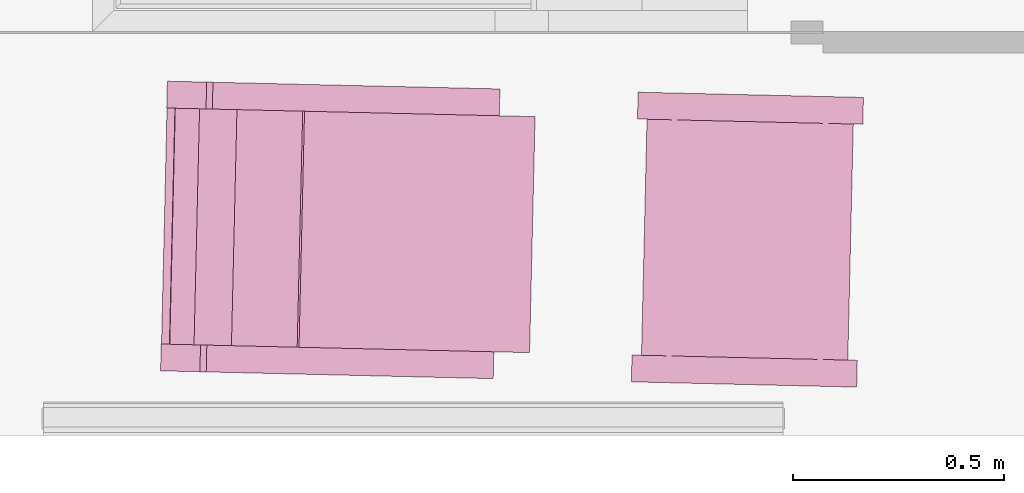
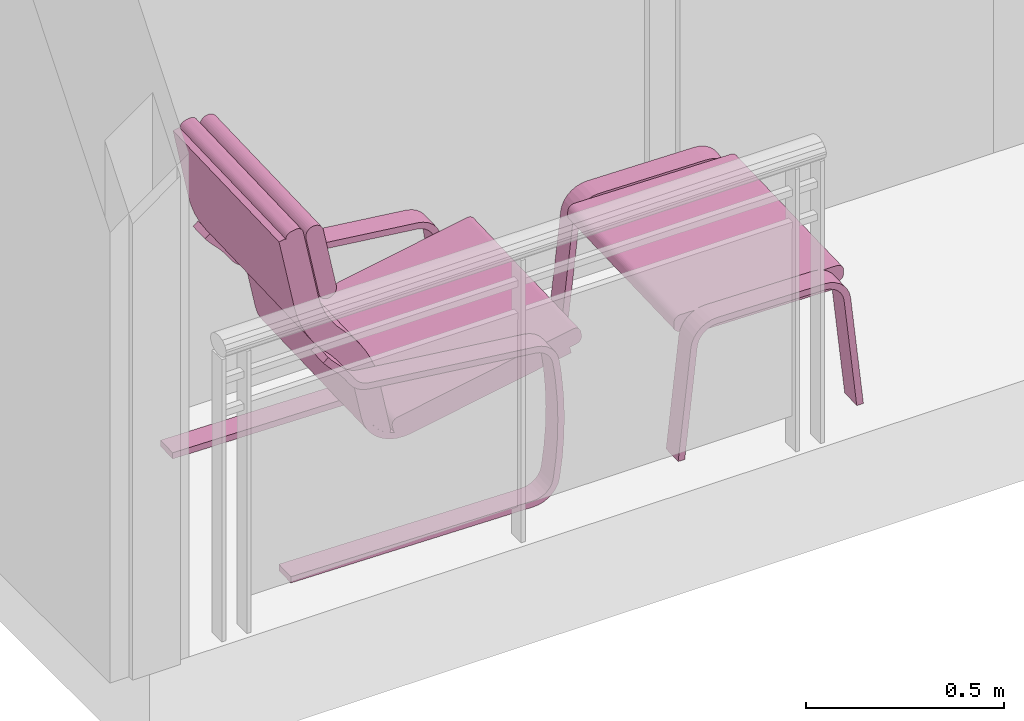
# One storey, part 5 of 7: 1 furnishing.
"""IFC2X3 building model written with IfcOpenShell, lengths in metres."""

from ifc_helpers import new_model, entity, si_unit, converted_unit, derived_unit, direction, frame, frame_2d, origin, place, context, subcontext, project, spatial, polyline, circle_curve, parameter, trimmed, segment, composite_curve, outline, extrude, source, transform, mapped, material, material_list, type_object, type_shapes, element, save


model = new_model("IFC2X3")

# Units and contexts
model_context = context("Model", 3, precision=1e-05, world=origin(), true_north=direction((6.123233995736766e-17, 1.0)))
body_context = subcontext(model_context, "Body", "Model", "MODEL_VIEW")
ifc_project = project(units=[si_unit("LENGTHUNIT", "METRE"), si_unit("AREAUNIT", "SQUARE_METRE"), converted_unit("PLANEANGLEUNIT", "DEGREE", entity("IfcPlaneAngleMeasure", 0.017453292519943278), si_unit("PLANEANGLEUNIT", "RADIAN"), dimensions=[0, 0, 0, 0, 0, 0, 0]), derived_unit("THERMALTRANSMITTANCEUNIT", [(si_unit("MASSUNIT", "GRAM", prefix="KILO"), 1), (si_unit("THERMODYNAMICTEMPERATUREUNIT", "KELVIN"), -1), (si_unit("TIMEUNIT", "SECOND"), -3)])], contexts=[model_context])

# Site, building, storey
site_placement = place(None, origin())
site = spatial("IfcSite", under=ifc_project, at=site_placement, Name="Default", CompositionType="ELEMENT")
building_placement = place(site_placement, origin())
building = spatial("IfcBuilding", under=site, at=building_placement, CompositionType="ELEMENT")
storey_placement = place(building_placement, origin())
storey = spatial("IfcBuildingStorey", under=building, at=storey_placement, Name="0 - Ground Floor", CompositionType="ELEMENT", Elevation=0.0)

# Furnishing
ifc_material_1 = material(Name="Wood")
ifc_material_2 = material(Name="Cushion")
ifc_material_list = material_list([ifc_material_1, ifc_material_2])
furniture_type = type_object("IfcFurnitureType", Name="063_Ikea_Poang_Chair_And:063_Ikea_Poang_Chair_And", AssemblyPlace="NOTDEFINED", material=ifc_material_list)
shared_shape = source(origin(), body_context, "Body", "SweptSolid", [
    extrude(outline(composite_curve([segment(polyline([(0.35449940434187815, -0.4332111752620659), (0.37354940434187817, -0.4332111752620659)]), True, "CONTINUOUS"), segment(polyline([(0.37354940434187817, -0.4332111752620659), (0.37354940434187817, 0.26534304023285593)]), True, "CONTINUOUS"), segment(trimmed(circle_curve(frame_2d((0.2973494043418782, 0.26534304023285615), x_axis=(0.15290324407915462, 0.9882411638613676)), 0.0761999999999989), [parameter(278.795211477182)], [parameter(7.836886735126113e-12)], True, "PARAMETER"), True, "CONTINUOUS"), segment(trimmed(circle_curve(frame_2d((0.13091363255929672, -0.8103612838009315), x_axis=(-0.11376432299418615, 0.9935077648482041)), 1.164703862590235), [parameter(344.67243029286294)], [parameter(0.16536362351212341)], True, "PARAMETER"), True, "CONTINUOUS"), segment(trimmed(circle_curve(frame_2d((0.1309136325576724, -0.8103612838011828), x_axis=(-0.15874459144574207, 0.9873196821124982)), 1.1647038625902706), [parameter(357.56368651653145)], [parameter(359.9999999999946)], True, "PARAMETER"), True, "CONTINUOUS"), segment(trimmed(circle_curve(frame_2d((-0.041880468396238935, 0.2643400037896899), x_axis=(-0.9945141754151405, 0.10460188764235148)), 0.07619999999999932), [parameter(285.138265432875)], [parameter(1.0177774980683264e-13)], True, "PARAMETER"), True, "CONTINUOUS"), segment(polyline([(-0.11766244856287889, 0.272310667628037), (-0.16807823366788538, -0.20702306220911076)]), True, "CONTINUOUS"), segment(trimmed(circle_curve(frame_2d((-0.2249147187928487, -0.20104506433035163), x_axis=(0.5243054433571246, -0.851530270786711)), 0.05714999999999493), [parameter(4.106732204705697e-11)], [parameter(52.37427210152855)], True, "PARAMETER"), False, "CONTINUOUS"), segment(trimmed(circle_curve(frame_2d((-0.03260861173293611, -0.513371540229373), x_axis=(-0.7157475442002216, 0.6983591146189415)), 0.30963258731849), [parameter(345.91700114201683)], [parameter(359.9999999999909)], True, "PARAMETER"), True, "CONTINUOUS"), segment(trimmed(circle_curve(frame_2d((-0.4860222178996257, -0.07097320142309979), x_axis=(0.19905992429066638, -0.9799873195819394)), 0.32384999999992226), [parameter(26.80512335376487)], [parameter(34.22250530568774)], True, "PARAMETER"), False, "CONTINUOUS"), segment(polyline([(-0.28536393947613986, -0.325168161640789), (-0.2735605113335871, -0.3401208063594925)]), True, "CONTINUOUS"), segment(trimmed(circle_curve(frame_2d((-0.48602221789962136, -0.07097320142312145), x_axis=(0.6196025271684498, -0.7849157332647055)), 0.34289999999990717), [parameter(6.411998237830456e-12)], [parameter(7.4173819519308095)], True, "PARAMETER"), True, "CONTINUOUS"), segment(trimmed(circle_curve(frame_2d((-0.03260861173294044, -0.513371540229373), x_axis=(-0.7157475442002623, 0.6983591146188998)), 0.29058258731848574), [parameter(345.9170011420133)], [parameter(359.9999999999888)], True, "PARAMETER"), False, "CONTINUOUS"), segment(trimmed(circle_curve(frame_2d((-0.2249147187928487, -0.20104506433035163), x_axis=(0.5243054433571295, -0.8515302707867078)), 0.07619999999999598), [parameter(3.974421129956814e-11)], [parameter(52.374272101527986)], True, "PARAMETER"), True, "CONTINUOUS"), segment(polyline([(-0.14913273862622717, -0.20901572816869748), (-0.09871695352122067, 0.27031800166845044)]), True, "CONTINUOUS"), segment(trimmed(circle_curve(frame_2d((-0.041880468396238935, 0.2643400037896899), x_axis=(-0.9945141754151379, 0.10460188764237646)), 0.057149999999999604), [parameter(285.1382654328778)], [parameter(1.93377724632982e-12)], True, "PARAMETER"), False, "CONTINUOUS"), segment(trimmed(circle_curve(frame_2d((0.13091363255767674, -0.8103612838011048), x_axis=(-0.15874459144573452, 0.9873196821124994)), 1.145653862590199), [parameter(357.1296139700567)], [parameter(359.9999999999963)], True, "PARAMETER"), False, "CONTINUOUS"), segment(trimmed(circle_curve(frame_2d((0.13091363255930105, -0.8103612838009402), x_axis=(0.15290324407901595, 0.9882411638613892)), 1.1456538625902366), [parameter(9.159997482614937e-13)], [parameter(15.058860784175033)], True, "PARAMETER"), False, "CONTINUOUS"), segment(trimmed(circle_curve(frame_2d((0.2973494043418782, 0.2653430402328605), x_axis=(1.0, 0.0)), 0.057150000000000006), [parameter(1.5266662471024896e-13)], [parameter(81.20478852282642)], True, "PARAMETER"), False, "CONTINUOUS"), segment(polyline([(0.35449940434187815, 0.26534304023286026), (0.35449940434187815, -0.4332111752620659)]), True, "CONTINUOUS")], self_intersect=False)), frame((0.279400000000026, 0.01411117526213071, 0.37354940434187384), z_axis=(1.0, 0.0, 0.0), x_axis=(0.0, 0.0, -1.0)), (0.0, 0.0, 1.0), 0.06349999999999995),
    extrude(outline(composite_curve([segment(polyline([(0.35449940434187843, -0.433211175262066), (0.37354940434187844, -0.433211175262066)]), True, "CONTINUOUS"), segment(polyline([(0.37354940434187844, -0.433211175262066), (0.37354940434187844, 0.2653430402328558)]), True, "CONTINUOUS"), segment(trimmed(circle_curve(frame_2d((0.29734940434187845, 0.2653430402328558), x_axis=(0.15290324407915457, 0.9882411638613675)), 0.0761999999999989), [parameter(278.7952114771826)], [parameter(8.29488660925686e-12)], True, "PARAMETER"), True, "CONTINUOUS"), segment(trimmed(circle_curve(frame_2d((0.130913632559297, -0.810361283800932), x_axis=(-0.11376432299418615, 0.993507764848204)), 1.164703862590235), [parameter(344.6724302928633)], [parameter(0.16536362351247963)], True, "PARAMETER"), True, "CONTINUOUS"), segment(trimmed(circle_curve(frame_2d((0.1309136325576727, -0.8103612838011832), x_axis=(-0.15874459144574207, 0.9873196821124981)), 1.1647038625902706), [parameter(357.5636865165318)], [parameter(359.99999999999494)], True, "PARAMETER"), True, "CONTINUOUS"), segment(trimmed(circle_curve(frame_2d((-0.04188046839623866, 0.2643400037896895), x_axis=(-0.9945141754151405, 0.10460188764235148)), 0.07619999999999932), [parameter(285.1382654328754)], [parameter(2.544443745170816e-13)], True, "PARAMETER"), True, "CONTINUOUS"), segment(polyline([(-0.11766244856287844, 0.27231066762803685), (-0.168078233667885, -0.20702306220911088)]), True, "CONTINUOUS"), segment(trimmed(circle_curve(frame_2d((-0.2249147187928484, -0.201045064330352), x_axis=(0.5243054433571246, -0.851530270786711)), 0.05714999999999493), [parameter(4.081287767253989e-11)], [parameter(52.37427210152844)], True, "PARAMETER"), False, "CONTINUOUS"), segment(trimmed(circle_curve(frame_2d((-0.03260861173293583, -0.5133715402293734), x_axis=(-0.7157475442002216, 0.6983591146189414)), 0.30963258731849), [parameter(345.91700114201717)], [parameter(359.99999999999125)], True, "PARAMETER"), True, "CONTINUOUS"), segment(trimmed(circle_curve(frame_2d((-0.4860222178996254, -0.07097320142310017), x_axis=(0.19905992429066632, -0.9799873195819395)), 0.32384999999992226), [parameter(26.805123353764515)], [parameter(34.222505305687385)], True, "PARAMETER"), False, "CONTINUOUS"), segment(polyline([(-0.2853639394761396, -0.32516816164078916), (-0.27356051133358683, -0.34012080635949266)]), True, "CONTINUOUS"), segment(trimmed(circle_curve(frame_2d((-0.4860222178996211, -0.07097320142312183), x_axis=(0.6196025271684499, -0.7849157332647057)), 0.34289999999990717), [parameter(6.869998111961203e-12)], [parameter(7.417381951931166)], True, "PARAMETER"), True, "CONTINUOUS"), segment(trimmed(circle_curve(frame_2d((-0.03260861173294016, -0.5133715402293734), x_axis=(-0.7157475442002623, 0.6983591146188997)), 0.29058258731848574), [parameter(345.9170011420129)], [parameter(359.9999999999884)], True, "PARAMETER"), False, "CONTINUOUS"), segment(trimmed(circle_curve(frame_2d((-0.2249147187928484, -0.201045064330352), x_axis=(0.5243054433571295, -0.8515302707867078)), 0.07619999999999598), [parameter(4.0303988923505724e-11)], [parameter(52.37427210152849)], True, "PARAMETER"), True, "CONTINUOUS"), segment(polyline([(-0.1491327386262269, -0.20901572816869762), (-0.09871695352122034, 0.2703180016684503)]), True, "CONTINUOUS"), segment(trimmed(circle_curve(frame_2d((-0.04188046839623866, 0.2643400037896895), x_axis=(-0.9945141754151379, 0.10460188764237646)), 0.057149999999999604), [parameter(285.13826543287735)], [parameter(1.3739996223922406e-12)], True, "PARAMETER"), False, "CONTINUOUS"), segment(trimmed(circle_curve(frame_2d((0.13091363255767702, -0.8103612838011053), x_axis=(-0.15874459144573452, 0.9873196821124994)), 1.145653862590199), [parameter(357.12961397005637)], [parameter(359.9999999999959)], True, "PARAMETER"), False, "CONTINUOUS"), segment(trimmed(circle_curve(frame_2d((0.13091363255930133, -0.8103612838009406), x_axis=(0.152903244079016, 0.988241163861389)), 1.1456538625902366), [parameter(5.597776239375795e-13)], [parameter(15.058860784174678)], True, "PARAMETER"), False, "CONTINUOUS"), segment(trimmed(circle_curve(frame_2d((0.29734940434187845, 0.26534304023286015), x_axis=(1.0, 0.0)), 0.057150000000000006), [parameter(0.0)], [parameter(81.20478852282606)], True, "PARAMETER"), False, "CONTINUOUS"), segment(polyline([(0.35449940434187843, 0.26534304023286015), (0.35449940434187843, -0.433211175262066)]), True, "CONTINUOUS")], self_intersect=False)), frame((-0.34290000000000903, 0.014111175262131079, 0.3735494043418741), z_axis=(1.0, 0.0, 0.0), x_axis=(0.0, 0.0, -1.0)), (0.0, 0.0, 1.0), 0.06349999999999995),
    extrude(outline(composite_curve([segment(polyline([(0.2759133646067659, -0.059107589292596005), (0.2759133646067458, -0.5301697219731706)]), True, "CONTINUOUS"), segment(polyline([(0.2759133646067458, -0.5301697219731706), (0.2949633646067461, -0.5301697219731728)]), True, "CONTINUOUS"), segment(polyline([(0.2949633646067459, -0.5301697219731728), (0.294963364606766, -0.0591075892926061)]), True, "CONTINUOUS"), segment(trimmed(circle_curve(frame_2d((0.1743133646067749, -0.05910758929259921), x_axis=(1.0, 0.0)), 0.12065000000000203), [parameter(359.99999999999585)], [parameter(89.99999999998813)], True, "PARAMETER"), True, "CONTINUOUS"), segment(polyline([(0.17431336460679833, 0.06154241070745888), (0.06483512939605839, 0.061542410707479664)]), True, "CONTINUOUS"), segment(trimmed(circle_curve(frame_2d((0.09334176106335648, 0.3698599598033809), x_axis=(-0.0920659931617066, -0.995752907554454)), 0.30963258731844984), [parameter(350.7624072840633)], [parameter(359.9999999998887)], True, "PARAMETER"), False, "CONTINUOUS"), segment(trimmed(circle_curve(frame_2d((0.09334176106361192, 0.36985995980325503), x_axis=(-0.5624082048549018, -0.8268597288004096)), 0.30963258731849), [parameter(8.803775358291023e-12)], [parameter(19.70243924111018)], True, "PARAMETER"), False, "CONTINUOUS"), segment(trimmed(circle_curve(frame_2d((-0.26293404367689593, -0.15394128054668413), x_axis=(0.0, 1.0)), 0.32384999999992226), [parameter(325.7774946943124)], [parameter(3.195821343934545e-11)], True, "PARAMETER"), True, "CONTINUOUS"), segment(polyline([(-0.2629340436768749, 0.1699087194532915), (-0.48446940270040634, 0.1699087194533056)]), True, "CONTINUOUS"), segment(polyline([(-0.48446940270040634, 0.1699087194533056), (-0.4844694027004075, 0.1508587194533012)]), True, "CONTINUOUS"), segment(polyline([(-0.48446940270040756, 0.15085871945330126), (-0.2629340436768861, 0.1508587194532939)]), True, "CONTINUOUS"), segment(trimmed(circle_curve(frame_2d((-0.2629340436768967, -0.15394128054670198), x_axis=(0.5624082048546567, 0.8268597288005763)), 0.304799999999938), [parameter(1.755666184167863e-11)], [parameter(34.22250530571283)], True, "PARAMETER"), False, "CONTINUOUS"), segment(trimmed(circle_curve(frame_2d((0.09334176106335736, 0.36985995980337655), x_axis=(-0.22675033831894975, -0.9739529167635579)), 0.328682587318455), [parameter(338.88332042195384)], [parameter(2.3889571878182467)], True, "PARAMETER"), True, "CONTINUOUS"), segment(trimmed(circle_curve(frame_2d((0.09334176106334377, 0.36985995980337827), x_axis=(-0.08936367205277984, -0.9959990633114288)), 0.3286825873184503), [parameter(354.4101321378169)], [parameter(359.99999999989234)], True, "PARAMETER"), True, "CONTINUOUS"), segment(polyline([(0.06396947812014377, 0.04249241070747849), (0.17431336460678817, 0.04249241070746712)]), True, "CONTINUOUS"), segment(trimmed(circle_curve(frame_2d((0.1743133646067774, -0.059107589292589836), x_axis=(1.0, 0.0)), 0.10159999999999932), [parameter(359.99999999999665)], [parameter(89.99999999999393)], True, "PARAMETER"), False, "CONTINUOUS")], self_intersect=False)), frame((-0.27940000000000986, -0.1553828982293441, 0.5712560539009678), z_axis=(-1.0, 0.0, 0.0), x_axis=(0.0, 0.19905992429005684, -0.9799873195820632)), (0.0, 0.0, -1.0), 0.5588000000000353),
    extrude(outline(composite_curve([segment(trimmed(circle_curve(frame_2d((-0.13674836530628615, 0.3545978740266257), x_axis=(1.0, 0.0)), 0.013309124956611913), [parameter(145.84228700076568)], [parameter(186.98119964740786)], True, "PARAMETER"), True, "CONTINUOUS"), segment(polyline([(-0.14995881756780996, 0.35298023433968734), (-0.1122084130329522, 0.16713208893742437)]), True, "CONTINUOUS"), segment(trimmed(circle_curve(frame_2d((0.2521076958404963, 0.2733432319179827), x_axis=(1.0, 0.0)), 0.3794825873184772), [parameter(196.25328764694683)], [parameter(208.97896526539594)], True, "PARAMETER"), True, "CONTINUOUS"), segment(trimmed(circle_curve(frame_2d((0.25210769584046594, 0.27334323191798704), x_axis=(1.0, 0.0)), 0.3794825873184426), [parameter(208.97896526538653)], [parameter(225.70449666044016)], True, "PARAMETER"), True, "CONTINUOUS"), segment(trimmed(circle_curve(frame_2d((-0.19029064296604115, -0.18007037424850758), x_axis=(1.0, 0.0)), 0.25399999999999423), [parameter(11.481991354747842)], [parameter(45.70449666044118)], True, "PARAMETER"), False, "CONTINUOUS"), segment(polyline([(0.05862613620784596, -0.12950915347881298), (0.10146091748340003, -0.34038807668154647)]), True, "CONTINUOUS"), segment(trimmed(circle_curve(frame_2d((0.12012967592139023, -0.33659598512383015), x_axis=(1.0, 0.0)), 0.01905), [parameter(191.48199135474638)], [parameter(281.48199135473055)], True, "PARAMETER"), True, "CONTINUOUS"), segment(polyline([(0.12392176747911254, -0.3552647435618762), (0.13636760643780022, -0.3527366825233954)]), True, "CONTINUOUS"), segment(trimmed(circle_curve(frame_2d((0.13257551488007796, -0.33406792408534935), x_axis=(1.0, 0.0)), 0.01905), [parameter(281.48199135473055)], [parameter(11.481991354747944)], True, "PARAMETER"), True, "CONTINUOUS"), segment(polyline([(0.1512442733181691, -0.33027583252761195), (0.10840949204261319, -0.11939690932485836)]), True, "CONTINUOUS"), segment(trimmed(circle_curve(frame_2d((-0.1902906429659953, -0.18007037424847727), x_axis=(0.6983591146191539, 0.7157475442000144)), 0.304799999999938), [parameter(325.77749469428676)], [parameter(359.99999999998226)], True, "PARAMETER"), True, "CONTINUOUS"), segment(trimmed(circle_curve(frame_2d((0.25210769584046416, 0.27334323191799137), x_axis=(-0.9093246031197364, -0.4160874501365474)), 0.328682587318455), [parameter(357.6110428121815)], [parameter(21.116679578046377)], True, "PARAMETER"), False, "CONTINUOUS"), segment(trimmed(circle_curve(frame_2d((0.2521076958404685, 0.2733432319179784), x_axis=(-0.9582777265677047, -0.2858387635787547)), 0.3286825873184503), [parameter(1.0829152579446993e-10)], [parameter(5.589867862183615)], True, "PARAMETER"), False, "CONTINUOUS"), segment(polyline([(-0.06286150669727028, 0.1793930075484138), (-0.08482655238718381, 0.2875286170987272)]), True, "CONTINUOUS"), segment(trimmed(circle_curve(frame_2d((-0.18439326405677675, 0.26730412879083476), x_axis=(-0.19905992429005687, 0.9799873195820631)), 0.10159999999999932), [parameter(270.0000000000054)], [parameter(327.38416331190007)], True, "PARAMETER"), True, "CONTINUOUS")], self_intersect=False)), frame((-0.27940000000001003, -0.24715266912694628, 0.6795012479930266), z_axis=(1.0, 0.0, 0.0), x_axis=(0.0, -1.0, 0.0)), (0.0, 0.0, 1.0), 0.5588000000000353),
    extrude(outline(composite_curve([segment(trimmed(circle_curve(frame_2d((0.22717424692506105, 0.03778980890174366), x_axis=(1.0, 0.0)), 0.01905), [parameter(281.48199135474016)], [parameter(11.481991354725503)], True, "PARAMETER"), True, "CONTINUOUS"), segment(polyline([(0.24584300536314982, 0.041581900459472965), (0.24331494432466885, 0.054027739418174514)]), True, "CONTINUOUS"), segment(trimmed(circle_curve(frame_2d((0.2246461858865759, 0.05023564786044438), x_axis=(1.0, 0.0)), 0.01905), [parameter(11.481991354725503)], [parameter(43.81893881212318)], True, "PARAMETER"), True, "CONTINUOUS"), segment(trimmed(circle_curve(frame_2d((0.21618690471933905, -0.035718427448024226), x_axis=(-0.19905992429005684, 0.9799873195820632)), 0.10159999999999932), [parameter(335.8942572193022)], [parameter(2.4426659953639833e-12)], True, "PARAMETER"), True, "CONTINUOUS"), segment(polyline([(0.19596241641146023, 0.06384828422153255), (-0.28434125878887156, -0.03371339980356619)]), True, "CONTINUOUS"), segment(trimmed(circle_curve(frame_2d((-0.2805491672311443, -0.052382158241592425), x_axis=(1.0, 0.0)), 0.01905), [parameter(101.48199135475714)], [parameter(191.48199135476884)], True, "PARAMETER"), True, "CONTINUOUS"), segment(polyline([(-0.2992179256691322, -0.05617424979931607), (-0.29668986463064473, -0.06862008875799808)]), True, "CONTINUOUS"), segment(trimmed(circle_curve(frame_2d((-0.2780211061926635, -0.06482799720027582), x_axis=(1.0, 0.0)), 0.01905), [parameter(191.48199135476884)], [parameter(281.4819913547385)], True, "PARAMETER"), True, "CONTINUOUS"), segment(polyline([(-0.27422901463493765, -0.08349675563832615), (0.23096633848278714, 0.019121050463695)]), True, "CONTINUOUS")], self_intersect=False)), frame((-0.27940000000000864, 0.15342749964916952, 0.3764786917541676), z_axis=(1.0, 0.0, 0.0), x_axis=(0.0, -1.0, 0.0)), (0.0, 0.0, 1.0), 0.5588000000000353),
    extrude(outline(composite_curve([segment(trimmed(circle_curve(frame_2d((0.01888932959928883, -0.0929936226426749), x_axis=(1.0, 0.0)), 0.0254), [parameter(191.48199135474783)], [parameter(281.48199135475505)], True, "PARAMETER"), True, "CONTINUOUS"), segment(trimmed(circle_curve(frame_2d((0.018889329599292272, -0.09299362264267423), x_axis=(-0.9207502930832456, -0.3901524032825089)), 0.0254), [parameter(78.51800864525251)], [parameter(168.51800864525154)], True, "PARAMETER"), True, "CONTINUOUS"), segment(polyline([(0.04378100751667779, -0.08793750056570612), (0.006002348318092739, 0.09804974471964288)]), True, "CONTINUOUS"), segment(trimmed(circle_curve(frame_2d((-0.018889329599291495, 0.09299362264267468), x_axis=(-1.0, 0.0)), 0.0254), [parameter(191.48199135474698)], [parameter(281.48199135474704)], True, "PARAMETER"), True, "CONTINUOUS"), segment(trimmed(circle_curve(frame_2d((-0.018889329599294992, 0.09299362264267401), x_axis=(0.9207502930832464, 0.3901524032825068)), 0.0254), [parameter(78.51800864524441)], [parameter(168.51800864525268)], True, "PARAMETER"), True, "CONTINUOUS"), segment(polyline([(-0.04378100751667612, 0.08793750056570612), (-0.006002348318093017, -0.0980497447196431)]), True, "CONTINUOUS")], self_intersect=False)), frame((-0.27940000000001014, -0.29707841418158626, 0.9097581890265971), z_axis=(1.0, 0.0, 0.0), x_axis=(0.0, 1.0, 0.0)), (0.0, 0.0, 1.0), 0.5588000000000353),
    extrude(outline(composite_curve([segment(trimmed(circle_curve(frame_2d((-0.1541870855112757, -0.08544180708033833), x_axis=(1.0, 0.0)), 0.0762), [parameter(186.19889507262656)], [parameter(269.9999999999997)], True, "PARAMETER"), True, "CONTINUOUS"), segment(polyline([(-0.1541870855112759, -0.16164180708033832), (0.1541870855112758, -0.16164180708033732)]), True, "CONTINUOUS"), segment(trimmed(circle_curve(frame_2d((0.15418708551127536, -0.08544180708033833), x_axis=(-1.0, 0.0)), 0.0762), [parameter(89.99999999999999)], [parameter(173.80110492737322)], True, "PARAMETER"), True, "CONTINUOUS"), segment(polyline([(0.22994154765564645, -0.09366989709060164), (0.26669999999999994, 0.24475819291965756)]), True, "CONTINUOUS"), segment(polyline([(0.2666999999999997, 0.24475819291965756), (0.24753796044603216, 0.2447581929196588)]), True, "CONTINUOUS"), segment(polyline([(0.24753796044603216, 0.24475819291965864), (0.21100293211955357, -0.09161287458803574)]), True, "CONTINUOUS"), segment(trimmed(circle_curve(frame_2d((0.15418708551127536, -0.08544180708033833), x_axis=(-1.0, 0.0)), 0.057150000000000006), [parameter(90.00000000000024)], [parameter(173.80110492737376)], True, "PARAMETER"), False, "CONTINUOUS"), segment(polyline([(0.15418708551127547, -0.14259180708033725), (-0.1541870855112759, -0.1425918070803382)]), True, "CONTINUOUS"), segment(trimmed(circle_curve(frame_2d((-0.1541870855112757, -0.08544180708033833), x_axis=(1.0, 0.0)), 0.057150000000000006), [parameter(186.19889507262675)], [parameter(270.00000000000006)], True, "PARAMETER"), False, "CONTINUOUS"), segment(polyline([(-0.21100293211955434, -0.09161287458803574), (-0.24753796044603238, 0.2447581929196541)]), True, "CONTINUOUS"), segment(polyline([(-0.2475379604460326, 0.24475819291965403), (-0.2667000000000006, 0.24475819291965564)]), True, "CONTINUOUS"), segment(polyline([(-0.2667000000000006, 0.24475819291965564), (-0.22994154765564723, -0.09366989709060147)]), True, "CONTINUOUS")], self_intersect=False)), frame((0.27940000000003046, 0.962213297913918, 0.24475819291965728), z_axis=(1.0, 0.0, 0.0), x_axis=(0.0, -1.0, 0.0)), (0.0, 0.0, 1.0), 0.06350000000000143),
    extrude(outline(composite_curve([segment(trimmed(circle_curve(frame_2d((-0.15418708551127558, -0.08544180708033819), x_axis=(1.0, 0.0)), 0.0762), [parameter(186.19889507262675)], [parameter(270.0000000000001)], True, "PARAMETER"), True, "CONTINUOUS"), segment(polyline([(-0.1541870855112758, -0.16164180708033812), (0.1541870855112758, -0.16164180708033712)]), True, "CONTINUOUS"), segment(trimmed(circle_curve(frame_2d((0.15418708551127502, -0.08544180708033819), x_axis=(-1.0, 0.0)), 0.0762), [parameter(90.0000000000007)], [parameter(173.80110492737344)], True, "PARAMETER"), True, "CONTINUOUS"), segment(polyline([(0.22994154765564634, -0.09366989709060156), (0.2666999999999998, 0.2447581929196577)]), True, "CONTINUOUS"), segment(polyline([(0.2666999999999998, 0.24475819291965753), (0.24753796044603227, 0.24475819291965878)]), True, "CONTINUOUS"), segment(polyline([(0.24753796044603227, 0.24475819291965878), (0.21100293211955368, -0.0916128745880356)]), True, "CONTINUOUS"), segment(trimmed(circle_curve(frame_2d((0.15418708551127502, -0.08544180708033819), x_axis=(-1.0, 0.0)), 0.057150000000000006), [parameter(90.00000000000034)], [parameter(173.80110492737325)], True, "PARAMETER"), False, "CONTINUOUS"), segment(polyline([(0.15418708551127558, -0.14259180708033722), (-0.1541870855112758, -0.14259180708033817)]), True, "CONTINUOUS"), segment(trimmed(circle_curve(frame_2d((-0.15418708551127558, -0.08544180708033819), x_axis=(1.0, 0.0)), 0.057150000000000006), [parameter(186.1988950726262)], [parameter(269.99999999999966)], True, "PARAMETER"), False, "CONTINUOUS"), segment(polyline([(-0.21100293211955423, -0.09161287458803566), (-0.24753796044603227, 0.24475819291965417)]), True, "CONTINUOUS"), segment(polyline([(-0.2475379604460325, 0.24475819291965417), (-0.2667000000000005, 0.24475819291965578)]), True, "CONTINUOUS"), segment(polyline([(-0.2667000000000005, 0.24475819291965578), (-0.22994154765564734, -0.0936698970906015)]), True, "CONTINUOUS")], self_intersect=False)), frame((-0.342900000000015, 0.9622132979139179, 0.24475819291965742), z_axis=(1.0, 0.0, 0.0), x_axis=(0.0, -1.0, 0.0)), (0.0, 0.0, 1.0), 0.06350000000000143),
    extrude(outline(composite_curve([segment(polyline([(-0.006350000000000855, -0.24419292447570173), (0.006350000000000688, -0.24419292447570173)]), True, "CONTINUOUS"), segment(trimmed(circle_curve(frame_2d((0.006350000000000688, -0.22514292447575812), x_axis=(0.0, 1.0)), 0.01905), [parameter(179.99999999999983)], [parameter(269.9999999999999)], True, "PARAMETER"), True, "CONTINUOUS"), segment(polyline([(0.0254000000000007, -0.22514292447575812), (0.0254000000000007, 0.22514292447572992)]), True, "CONTINUOUS"), segment(trimmed(circle_curve(frame_2d((0.006350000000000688, 0.22514292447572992), x_axis=(0.0, 1.0)), 0.01905), [parameter(269.9999999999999)], [parameter(0.0)], True, "PARAMETER"), True, "CONTINUOUS"), segment(polyline([(0.006350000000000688, 0.24419292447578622), (-0.006350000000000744, 0.24419292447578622)]), True, "CONTINUOUS"), segment(trimmed(circle_curve(frame_2d((-0.006350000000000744, 0.22514292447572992), x_axis=(0.0, 1.0)), 0.01905), [parameter(0.0)], [parameter(90.00000000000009)], True, "PARAMETER"), True, "CONTINUOUS"), segment(polyline([(-0.025400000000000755, 0.22514292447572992), (-0.025400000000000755, -0.22514292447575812)]), True, "CONTINUOUS"), segment(trimmed(circle_curve(frame_2d((-0.006350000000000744, -0.22514292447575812), x_axis=(0.0, 1.0)), 0.01905), [parameter(90.00000000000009)], [parameter(179.99999999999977)], True, "PARAMETER"), True, "CONTINUOUS")], self_intersect=False)), frame((-0.2794000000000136, 0.9622132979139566, 0.374649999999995), z_axis=(1.0, 0.0, 0.0), x_axis=(0.0, 0.0, 1.0)), (0.0, 0.0, 1.0), 0.558800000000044),
    extrude(outline(composite_curve([segment(polyline([(-0.20806862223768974, -0.010642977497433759), (0.20806862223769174, -0.010642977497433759)]), True, "CONTINUOUS"), segment(trimmed(circle_curve(frame_2d((0.15418708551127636, 0.008407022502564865), x_axis=(-1.0, 0.0)), 0.057150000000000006), [parameter(160.5287793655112)], [parameter(173.80110492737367)], True, "PARAMETER"), True, "CONTINUOUS"), segment(polyline([(0.21100293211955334, 0.0022359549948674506), (0.21167320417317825, 0.008407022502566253)]), True, "CONTINUOUS"), segment(polyline([(0.21167320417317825, 0.008407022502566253), (-0.2116732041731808, 0.008407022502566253)]), True, "CONTINUOUS"), segment(polyline([(-0.2116732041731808, 0.008407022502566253), (-0.2110029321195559, 0.002235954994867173)]), True, "CONTINUOUS"), segment(trimmed(circle_curve(frame_2d((-0.15418708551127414, 0.008407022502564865), x_axis=(1.0, 0.0)), 0.057150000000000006), [parameter(186.19889507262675)], [parameter(199.4712206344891)], True, "PARAMETER"), True, "CONTINUOUS")], self_intersect=False)), frame((-0.27940000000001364, 0.9622132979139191, 0.3386070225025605), z_axis=(1.0, 0.0, 0.0), x_axis=(0.0, -1.0, 0.0)), (0.0, 0.0, 1.0), 0.558800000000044),
])
type_shapes(furniture_type, [shared_shape])
furnishing_placement = place(storey_placement, frame((-1.4942030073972, -1.7115363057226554, 0.0), z_axis=(0.0, 0.0, 1.0), x_axis=(-0.023345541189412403, -0.9997274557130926, 0.0)))
element("IfcFurnishingElement", 1, at=furnishing_placement, inside=storey, type_object=furniture_type, material=ifc_material_list, Name="063_Ikea_Poang_Chair_And:063_Ikea_Poang_Chair_And", ObjectType="063_Ikea_Poang_Chair_And:063_Ikea_Poang_Chair_And", context=body_context, shape_type="MappedRepresentation", body=[
    mapped(shared_shape, transform((0.0, 0.0, 0.0), scale=1.0)),
])

save(model, "model.ifc")
